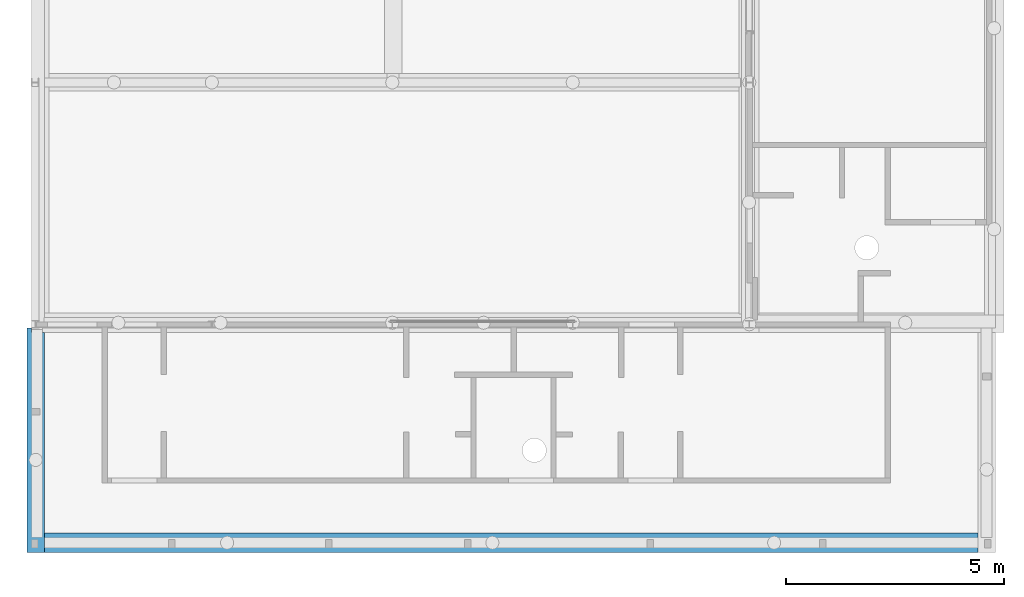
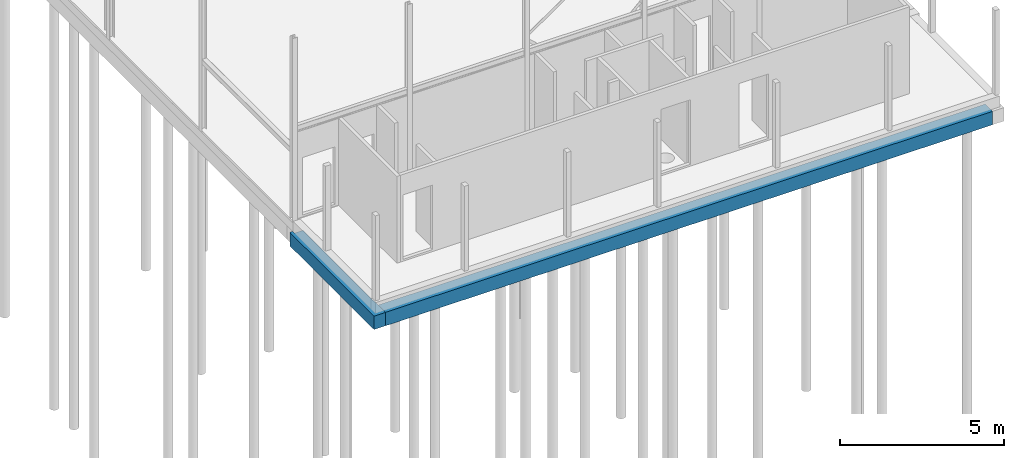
# One storey, part 11 of 17: 2 footings.
"""IFC2X3 building model written with IfcOpenShell, lengths in millimetres."""

from ifc_helpers import new_model, entity, si_unit, converted_unit, derived_unit, direction, frame, origin, place, context, subcontext, project, spatial, faceted_brep, source, transform, mapped, material, type_object, type_shapes, element, save


model = new_model("IFC2X3")

# Units and contexts
model_context = context("Model", 3, precision=0.01, world=origin(), true_north=direction((6.123031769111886e-17, 1.0)))
plan_context = context("Plan", 3, precision=0.01, world=origin(), true_north=direction((6.123031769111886e-17, 1.0)))
body_context = subcontext(model_context, "Body", "Model", "MODEL_VIEW")
ifc_project = project(units=[si_unit("LENGTHUNIT", "METRE", prefix="MILLI"), si_unit("AREAUNIT", "SQUARE_METRE"), si_unit("VOLUMEUNIT", "CUBIC_METRE"), converted_unit("PLANEANGLEUNIT", "DEGREE", entity("IfcPlaneAngleMeasure", 0.017453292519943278), si_unit("PLANEANGLEUNIT", "RADIAN"), dimensions=[0, 0, 0, 0, 0, 0, 0]), si_unit("MASSUNIT", "GRAM", prefix="KILO"), derived_unit("MASSDENSITYUNIT", [(si_unit("MASSUNIT", "GRAM", prefix="KILO"), 1), (si_unit("LENGTHUNIT", "METRE"), -3)]), derived_unit("IONCONCENTRATIONUNIT", [(si_unit("MASSUNIT", "GRAM", prefix="KILO"), 1), (si_unit("LENGTHUNIT", "METRE"), -3)]), derived_unit("MOMENTOFINERTIAUNIT", [(si_unit("LENGTHUNIT", "METRE"), 4)]), si_unit("TIMEUNIT", "SECOND"), si_unit("FREQUENCYUNIT", "HERTZ"), si_unit("THERMODYNAMICTEMPERATUREUNIT", "DEGREE_CELSIUS"), derived_unit("THERMALTRANSMITTANCEUNIT", [(si_unit("MASSUNIT", "GRAM", prefix="KILO"), 1), (si_unit("THERMODYNAMICTEMPERATUREUNIT", "KELVIN"), -1), (si_unit("TIMEUNIT", "SECOND"), -3)]), derived_unit("THERMALCONDUCTANCEUNIT", [(si_unit("MASSUNIT", "GRAM", prefix="KILO"), 1), (si_unit("THERMODYNAMICTEMPERATUREUNIT", "KELVIN"), -1), (si_unit("TIMEUNIT", "SECOND"), -3), (si_unit("LENGTHUNIT", "METRE"), 1)]), derived_unit("VOLUMETRICFLOWRATEUNIT", [(si_unit("LENGTHUNIT", "METRE", prefix="DECI"), 3), (si_unit("TIMEUNIT", "SECOND"), -1)]), derived_unit("MASSFLOWRATEUNIT", [(si_unit("MASSUNIT", "GRAM", prefix="KILO"), 1), (si_unit("TIMEUNIT", "SECOND"), -1)]), derived_unit("ROTATIONALFREQUENCYUNIT", [(si_unit("TIMEUNIT", "SECOND"), -1)]), si_unit("ELECTRICCURRENTUNIT", "AMPERE"), si_unit("ELECTRICVOLTAGEUNIT", "VOLT"), si_unit("POWERUNIT", "WATT"), si_unit("FORCEUNIT", "NEWTON", prefix="KILO"), si_unit("ILLUMINANCEUNIT", "LUX"), si_unit("LUMINOUSFLUXUNIT", "LUMEN"), si_unit("LUMINOUSINTENSITYUNIT", "CANDELA"), si_unit("ENERGYUNIT", "JOULE"), derived_unit("USERDEFINED", [(si_unit("MASSUNIT", "GRAM", prefix="KILO"), -1), (si_unit("LENGTHUNIT", "METRE"), -2), (si_unit("TIMEUNIT", "SECOND"), 3), (si_unit("LUMINOUSFLUXUNIT", "LUMEN"), 1)]), derived_unit("USERDEFINED", [(si_unit("MASSUNIT", "GRAM", prefix="KILO"), 1), (si_unit("TIMEUNIT", "SECOND"), -3), (si_unit("LENGTHUNIT", "METRE"), 3), (si_unit("ELECTRICCURRENTUNIT", "AMPERE"), -2)]), derived_unit("SOUNDPOWERUNIT", [(si_unit("MASSUNIT", "GRAM", prefix="KILO"), 1), (si_unit("TIMEUNIT", "SECOND"), -3), (si_unit("LENGTHUNIT", "METRE"), 2)]), derived_unit("SOUNDPRESSUREUNIT", [(si_unit("MASSUNIT", "GRAM", prefix="KILO"), 1), (si_unit("LENGTHUNIT", "METRE"), -1), (si_unit("TIMEUNIT", "SECOND"), -2)]), derived_unit("LINEARVELOCITYUNIT", [(si_unit("LENGTHUNIT", "METRE"), 1), (si_unit("TIMEUNIT", "SECOND"), -1)]), si_unit("PRESSUREUNIT", "PASCAL"), derived_unit("USERDEFINED", [(si_unit("MASSUNIT", "GRAM", prefix="KILO"), 1), (si_unit("LENGTHUNIT", "METRE"), -2), (si_unit("TIMEUNIT", "SECOND"), -2)]), derived_unit("LINEARFORCEUNIT", [(si_unit("MASSUNIT", "GRAM", prefix="KILO"), 1), (si_unit("TIMEUNIT", "SECOND"), -2)]), derived_unit("PLANARFORCEUNIT", [(si_unit("MASSUNIT", "GRAM", prefix="KILO"), 1), (si_unit("LENGTHUNIT", "METRE"), -1), (si_unit("TIMEUNIT", "SECOND"), -2)]), derived_unit("SPECIFICHEATCAPACITYUNIT", [(si_unit("THERMODYNAMICTEMPERATUREUNIT", "KELVIN"), -1), (si_unit("LENGTHUNIT", "METRE"), 2), (si_unit("TIMEUNIT", "SECOND"), -2)]), derived_unit("HEATFLUXDENSITYUNIT", [(si_unit("MASSUNIT", "GRAM", prefix="KILO"), 1), (si_unit("TIMEUNIT", "SECOND"), -3)]), derived_unit("HEATINGVALUEUNIT", [(si_unit("LENGTHUNIT", "METRE"), 2), (si_unit("TIMEUNIT", "SECOND"), -2)]), derived_unit("VAPORPERMEABILITYUNIT", [(si_unit("LENGTHUNIT", "METRE"), -1), (si_unit("TIMEUNIT", "SECOND"), 1)]), derived_unit("DYNAMICVISCOSITYUNIT", [(si_unit("MASSUNIT", "GRAM", prefix="KILO"), 1), (si_unit("TIMEUNIT", "SECOND"), -1), (si_unit("LENGTHUNIT", "METRE"), -1)]), derived_unit("THERMALEXPANSIONCOEFFICIENTUNIT", [(si_unit("THERMODYNAMICTEMPERATUREUNIT", "KELVIN"), -1)]), derived_unit("MODULUSOFELASTICITYUNIT", [(si_unit("MASSUNIT", "GRAM", prefix="KILO"), 1), (si_unit("LENGTHUNIT", "METRE"), -1), (si_unit("TIMEUNIT", "SECOND"), -2)]), derived_unit("ISOTHERMALMOISTURECAPACITYUNIT", [(si_unit("MASSUNIT", "GRAM", prefix="KILO"), -1), (si_unit("LENGTHUNIT", "METRE"), 3)]), derived_unit("MOISTUREDIFFUSIVITYUNIT", [(si_unit("TIMEUNIT", "SECOND"), -1), (si_unit("LENGTHUNIT", "METRE"), 2)]), derived_unit("MASSPERLENGTHUNIT", [(si_unit("MASSUNIT", "GRAM", prefix="KILO"), 1), (si_unit("LENGTHUNIT", "METRE"), -1)]), derived_unit("THERMALRESISTANCEUNIT", [(si_unit("MASSUNIT", "GRAM", prefix="KILO"), -1), (si_unit("TIMEUNIT", "SECOND"), 3), (si_unit("THERMODYNAMICTEMPERATUREUNIT", "KELVIN"), 1)]), derived_unit("ACCELERATIONUNIT", [(si_unit("LENGTHUNIT", "METRE"), 1), (si_unit("TIMEUNIT", "SECOND"), -2)]), derived_unit("ANGULARVELOCITYUNIT", [(si_unit("TIMEUNIT", "SECOND"), -1), (si_unit("PLANEANGLEUNIT", "RADIAN"), 1)]), derived_unit("LINEARSTIFFNESSUNIT", [(si_unit("MASSUNIT", "GRAM", prefix="KILO"), 1), (si_unit("TIMEUNIT", "SECOND"), -2)]), derived_unit("WARPINGCONSTANTUNIT", [(si_unit("LENGTHUNIT", "METRE"), 6)]), derived_unit("LINEARMOMENTUNIT", [(si_unit("MASSUNIT", "GRAM", prefix="KILO"), 1), (si_unit("LENGTHUNIT", "METRE"), 1), (si_unit("TIMEUNIT", "SECOND"), -2)]), derived_unit("TORQUEUNIT", [(si_unit("MASSUNIT", "GRAM", prefix="KILO"), 1), (si_unit("LENGTHUNIT", "METRE"), 2), (si_unit("TIMEUNIT", "SECOND"), -2)])], contexts=[model_context, plan_context])

# Site, building, storey
site_placement = place(None, origin())
site = spatial("IfcSite", under=ifc_project, at=site_placement, Name="Default", CompositionType="ELEMENT")
building_placement = place(site_placement, origin())
building = spatial("IfcBuilding", under=site, at=building_placement, CompositionType="ELEMENT")
storey_placement = place(building_placement, origin())
storey = spatial("IfcBuildingStorey", under=building, at=storey_placement, Name="00 begane grond", CompositionType="ELEMENT", Elevation=0.0)

# Footings
ifc_material = material(Name="ihwg beton")
type_product_1 = type_object("IfcTypeProduct", Name="16_SF_LIB_funderingsbalk_dw:450x500 (ihwg)", material=ifc_material)
shared_shape_1 = source(origin(), body_context, "Body", "Brep", [
    faceted_brep([(0.0, 0.0, -500.0), (0.0, 0.0, 0.0), (0.0, 450.0, 0.0), (0.0, 450.0, -500.0), (21365.0, 450.0, 0.0), (21365.0, 0.0, 0.0), (21365.0, 450.0, -500.0), (4179.999999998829, 375.0, -500.0), (4141.17714323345, 369.8888739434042, -500.0), (10250.0, 375.0, -500.0), (10211.1771432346, 369.88887394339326, -500.0), (4218.822856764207, 369.8888739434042, -500.0), (4104.999999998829, 354.9038105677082, -500.0), (4073.9339828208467, 331.0660171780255, -500.0), (4050.096189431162, 300.0, -500.0), (4035.111126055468, 263.82285676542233, -500.0), (4029.9999999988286, 225.0, -500.0), (4035.111126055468, 186.1771432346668, -500.0), (4050.096189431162, 150.0, -500.0), (4073.9339828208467, 118.93398282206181, -500.0), (4104.999999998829, 95.0961894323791, -500.0), (4141.17714323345, 80.11112605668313, -500.0), (4179.999999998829, 75.0, -500.0), (10250.0, 75.0, -500.0), (10211.177143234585, 80.11112605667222, -500.0), (4218.822856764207, 80.11112605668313, -500.0), (10175.0, 95.09618943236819, -500.0), (4254.999999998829, 95.09618943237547, -500.0), (10143.933982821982, 118.9339828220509, -500.0), (4286.06601717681, 118.93398282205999, -500.0), (10120.096189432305, 150.0, -500.0), (4309.903810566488, 150.0, -500.0), (10105.11112605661, 186.1771432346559, -500.0), (4324.888873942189, 186.17714323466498, -500.0), (10100.0, 225.0, -500.0), (4329.999999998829, 225.0, -500.0), (4324.888873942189, 263.82285676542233, -500.0), (10105.11112605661, 263.8228567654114, -500.0), (4309.903810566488, 300.0, -500.0), (10120.096189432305, 300.0, -500.0), (4286.06601717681, 331.0660171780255, -500.0), (10143.933982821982, 331.0660171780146, -500.0), (4254.999999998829, 354.90381056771, -500.0), (10175.0, 354.9038105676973, -500.0), (21365.0, 0.0, -500.0), (16700.0, 75.0, -500.0), (16661.177143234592, 80.1111260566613, -500.0), (10288.822856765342, 80.11112605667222, -500.0), (16625.0, 95.09618943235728, -500.0), (10325.0, 95.09618943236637, -500.0), (10356.066017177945, 118.93398282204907, -500.0), (16593.93398282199, 118.93398282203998, -500.0), (10379.903810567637, 150.0, -500.0), (16570.09618943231, 150.0, -500.0), (10394.888873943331, 186.17714323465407, -500.0), (16555.111126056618, 186.17714323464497, -500.0), (10400.0, 225.0, -500.0), (16550.0, 225.0, -500.0), (16555.111126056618, 263.8228567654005, -500.0), (10394.888873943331, 263.8228567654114, -500.0), (16570.09618943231, 300.0, -500.0), (10379.903810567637, 300.0, -500.0), (16593.93398282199, 331.0660171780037, -500.0), (10356.06601717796, 331.0660171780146, -500.0), (16625.0, 354.9038105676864, -500.0), (10325.0, 354.9038105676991, -500.0), (10288.822856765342, 369.88887394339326, -500.0), (16661.1771432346, 369.88887394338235, -500.0), (16700.0, 375.0, -500.0), (16738.82285676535, 80.1111260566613, -500.0), (16775.0, 95.09618943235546, -500.0), (16806.066017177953, 118.93398282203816, -500.0), (16829.903810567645, 150.0, -500.0), (16844.88887394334, 186.17714323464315, -500.0), (16850.0, 225.0, -500.0), (16844.88887394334, 263.8228567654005, -500.0), (16829.903810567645, 300.0, -500.0), (16806.06601717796, 331.0660171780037, -500.0), (16775.0, 354.9038105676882, -500.0), (16738.82285676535, 369.88887394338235, -500.0), (4254.999999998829, 95.09618943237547, -480.0), (4218.822856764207, 80.11112605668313, -480.0), (4179.999999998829, 75.0, -480.0), (4141.17714323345, 80.11112605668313, -480.0), (4104.999999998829, 95.0961894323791, -480.0), (4073.9339828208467, 118.93398282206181, -480.0), (4050.096189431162, 150.0, -480.0), (4035.111126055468, 186.1771432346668, -480.0), (4029.9999999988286, 225.0, -480.0), (4035.111126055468, 263.82285676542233, -480.0), (4050.096189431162, 300.0, -480.0), (4073.9339828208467, 331.0660171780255, -480.0), (4104.999999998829, 354.90381056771, -480.0), (4141.17714323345, 369.8888739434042, -480.0), (4179.999999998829, 375.0, -480.0), (4218.822856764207, 369.8888739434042, -480.0), (4254.999999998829, 354.9038105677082, -480.0), (4286.06601717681, 331.0660171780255, -480.0), (4309.903810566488, 300.0, -480.0), (4324.888873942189, 263.82285676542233, -480.0), (4329.999999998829, 225.0, -480.0), (4324.888873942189, 186.17714323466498, -480.0), (4309.903810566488, 150.0, -480.0), (4286.06601717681, 118.93398282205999, -480.0), (10325.0, 95.09618943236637, -480.0), (10288.822856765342, 80.11112605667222, -480.0), (10250.0, 75.0, -480.0), (10211.1771432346, 80.11112605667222, -480.0), (10175.0, 95.09618943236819, -480.0), (10143.933982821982, 118.9339828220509, -480.0), (10120.096189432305, 150.0, -480.0), (10105.11112605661, 186.1771432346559, -480.0), (10100.0, 225.0, -480.0), (10105.11112605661, 263.8228567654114, -480.0), (10120.096189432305, 300.0, -480.0), (10143.933982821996, 331.0660171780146, -480.0), (10175.0, 354.9038105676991, -480.0), (10211.1771432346, 369.88887394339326, -480.0), (10250.0, 375.0, -480.0), (10288.822856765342, 369.88887394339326, -480.0), (10325.0, 354.9038105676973, -480.0), (10356.06601717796, 331.0660171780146, -480.0), (10379.903810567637, 300.0, -480.0), (10394.888873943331, 263.8228567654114, -480.0), (10400.0, 225.0, -480.0), (10394.888873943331, 186.17714323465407, -480.0), (10379.903810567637, 150.0, -480.0), (10356.06601717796, 118.93398282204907, -480.0), (16775.0, 95.09618943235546, -480.0), (16738.82285676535, 80.1111260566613, -480.0), (16700.0, 75.0, -480.0), (16661.1771432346, 80.1111260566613, -480.0), (16625.0, 95.09618943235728, -480.0), (16593.93398282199, 118.93398282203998, -480.0), (16570.09618943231, 150.0, -480.0), (16555.111126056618, 186.17714323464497, -480.0), (16550.0, 225.0, -480.0), (16555.111126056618, 263.8228567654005, -480.0), (16570.09618943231, 300.0, -480.0), (16593.933982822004, 331.0660171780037, -480.0), (16625.0, 354.9038105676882, -480.0), (16661.1771432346, 369.88887394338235, -480.0), (16700.0, 375.0, -480.0), (16738.82285676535, 369.88887394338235, -480.0), (16775.0, 354.9038105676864, -480.0), (16806.06601717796, 331.0660171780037, -480.0), (16829.903810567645, 300.0, -480.0), (16844.88887394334, 263.8228567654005, -480.0), (16850.0, 225.0, -480.0), (16844.88887394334, 186.17714323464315, -480.0), (16829.903810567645, 150.0, -480.0), (16806.06601717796, 118.93398282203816, -480.0)], [[[0, 1, 2, 3]], [[4, 2, 1, 5]], [[6, 3, 2, 4]], [[7, 8, 3]], [[9, 7, 3]], [[10, 7, 9]], [[10, 11, 7]], [[12, 3, 8]], [[3, 12, 13]], [[13, 14, 3]], [[15, 3, 14]], [[16, 3, 15]], [[0, 3, 16]], [[0, 16, 17]], [[18, 0, 17]], [[0, 18, 19]], [[0, 19, 20]], [[20, 21, 0]], [[22, 0, 21]], [[23, 0, 22]], [[23, 22, 24]], [[24, 22, 25]], [[26, 24, 25]], [[25, 27, 26]], [[27, 28, 26]], [[28, 27, 29]], [[28, 29, 30]], [[30, 29, 31]], [[32, 30, 31]], [[31, 33, 32]], [[33, 34, 32]], [[33, 35, 34]], [[35, 36, 34]], [[37, 34, 36]], [[37, 36, 38]], [[38, 39, 37]], [[39, 38, 40]], [[39, 40, 41]], [[42, 41, 40]], [[42, 11, 43]], [[42, 43, 41]], [[23, 44, 0]], [[45, 44, 23]], [[45, 23, 46]], [[46, 23, 47]], [[46, 47, 48]], [[49, 48, 47]], [[49, 50, 48]], [[51, 48, 50]], [[50, 52, 51]], [[52, 53, 51]], [[52, 54, 53]], [[53, 54, 55]], [[55, 54, 56]], [[55, 56, 57]], [[57, 56, 58]], [[56, 59, 58]], [[59, 60, 58]], [[60, 59, 61]], [[60, 61, 62]], [[61, 63, 62]], [[64, 62, 63]], [[63, 65, 64]], [[66, 64, 65]], [[66, 9, 67]], [[64, 66, 67]], [[67, 9, 68]], [[44, 45, 69]], [[70, 44, 69]], [[44, 70, 71]], [[72, 44, 71]], [[44, 72, 73]], [[44, 73, 74]], [[6, 44, 74]], [[74, 75, 6]], [[6, 75, 76]], [[6, 76, 77]], [[77, 78, 6]], [[6, 78, 79]], [[79, 68, 6]], [[9, 6, 68]], [[3, 6, 9]], [[10, 43, 11]], [[5, 1, 0, 44]], [[4, 5, 44, 6]], [[80, 81, 82, 83, 84, 85, 86, 87, 88, 89, 90, 91, 92, 93, 94, 95, 96, 97, 98, 99, 100, 101, 102, 103]], [[104, 105, 106, 107, 108, 109, 110, 111, 112, 113, 114, 115, 116, 117, 118, 119, 120, 121, 122, 123, 124, 125, 126, 127]], [[128, 129, 130, 131, 132, 133, 134, 135, 136, 137, 138, 139, 140, 141, 142, 143, 144, 145, 146, 147, 148, 149, 150, 151]], [[16, 88, 87, 17]], [[17, 87, 86, 18]], [[20, 19, 85, 84]], [[19, 18, 86, 85]], [[83, 21, 20, 84]], [[21, 83, 82, 22]], [[27, 25, 81, 80]], [[27, 80, 103, 29]], [[33, 31, 102, 101]], [[102, 31, 29, 103]], [[100, 35, 33, 101]], [[22, 82, 81, 25]], [[35, 100, 99, 36]], [[36, 99, 98, 38]], [[42, 40, 97, 96]], [[38, 98, 97, 40]], [[42, 96, 95, 11]], [[11, 95, 94, 7]], [[8, 7, 94, 93]], [[8, 93, 92, 12]], [[14, 13, 91, 90]], [[12, 92, 91, 13]], [[14, 90, 89, 15]], [[16, 15, 89, 88]], [[34, 112, 111, 32]], [[32, 111, 110, 30]], [[26, 28, 109, 108]], [[28, 30, 110, 109]], [[107, 24, 26, 108]], [[24, 107, 106, 23]], [[49, 47, 105, 104]], [[49, 104, 127, 50]], [[54, 52, 126, 125]], [[126, 52, 50, 127]], [[124, 56, 54, 125]], [[23, 106, 105, 47]], [[56, 124, 123, 59]], [[59, 123, 122, 61]], [[65, 63, 121, 120]], [[63, 61, 122, 121]], [[119, 66, 65, 120]], [[66, 119, 118, 9]], [[10, 9, 118, 117]], [[10, 117, 116, 43]], [[39, 41, 115, 114]], [[43, 116, 115, 41]], [[39, 114, 113, 37]], [[34, 37, 113, 112]], [[57, 136, 135, 55]], [[55, 135, 134, 53]], [[48, 51, 133, 132]], [[51, 53, 134, 133]], [[131, 46, 48, 132]], [[46, 131, 130, 45]], [[70, 69, 129, 128]], [[70, 128, 151, 71]], [[73, 72, 150, 149]], [[150, 72, 71, 151]], [[148, 74, 73, 149]], [[45, 130, 129, 69]], [[74, 148, 147, 75]], [[75, 147, 146, 76]], [[78, 77, 145, 144]], [[77, 76, 146, 145]], [[143, 79, 78, 144]], [[79, 143, 142, 68]], [[67, 68, 142, 141]], [[67, 141, 140, 64]], [[60, 62, 139, 138]], [[64, 140, 139, 62]], [[60, 138, 137, 58]], [[57, 58, 137, 136]]]),
])
type_shapes(type_product_1, [shared_shape_1])
footing_1_placement = place(storey_placement, frame((34366.19293735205, 11112.670340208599, -470.0)))
element("IfcFooting", 1, at=footing_1_placement, inside=storey, type_object=type_product_1, material=ifc_material, Name="16_SF_LIB_funderingsbalk_dw:450x500 (ihwg)", ObjectType="16_SF_LIB_funderingsbalk_dw:450x500 (ihwg)", context=body_context, shape_type="MappedRepresentation", body=[
    mapped(shared_shape_1, transform((0.0, 0.0, 0.0), scale=1.0)),
])
type_product_2 = type_object("IfcTypeProduct", Name="16_SF_LIB_funderingsbalk_dw:400x500 (ihwg)", material=ifc_material)
shared_shape_2 = source(origin(), body_context, "Body", "Brep", [
    faceted_brep([(400.0, 0.0, 0.0), (0.0, 0.0, 0.0), (0.0, 0.0, -500.0), (400.0, 0.0, -500.0), (0.0, 5140.000000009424, -500.0), (0.0, 5140.000000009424, 0.0), (100.0, 5140.000000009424, 0.0), (100.0, 5140.000000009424, -500.0), (400.0, 450.00000001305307, 0.0), (400.0, 5035.0000000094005, 0.0), (100.0, 5035.000000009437, 0.0), (400.0, 450.00000001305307, -500.0), (400.0, 5035.000000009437, -500.0), (329.9038105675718, 2045.0000000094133, -500.0), (344.8888739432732, 2081.1771432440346, -500.0), (350.0, 2120.0000000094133, -500.0), (306.06601717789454, 2013.9339828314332, -500.0), (275.0, 1990.096189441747, -500.0), (238.82285676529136, 1975.1111260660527, -500.0), (200.0, 1970.0000000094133, -500.0), (161.17714323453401, 1975.1111260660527, -500.0), (125.0, 1990.0961894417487, -500.0), (93.93398282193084, 2013.9339828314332, -500.0), (70.09618943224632, 2045.0000000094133, -500.0), (55.111126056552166, 2081.1771432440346, -500.0), (50.0, 2120.0000000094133, -500.0), (55.111126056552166, 2158.82285677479, -500.0), (70.09618943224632, 2195.0000000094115, -500.0), (93.93398282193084, 2226.066017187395, -500.0), (100.0, 5035.000000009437, -500.0), (200.0, 2270.000000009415, -500.0), (125.0, 2249.9038105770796, -500.0), (161.17714323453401, 2264.888873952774, -500.0), (344.8888739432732, 2158.8228567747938, -500.0), (329.9038105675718, 2195.000000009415, -500.0), (306.06601717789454, 2226.066017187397, -500.0), (275.0, 2249.9038105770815, -500.0), (238.82285676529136, 2264.888873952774, -500.0), (275.0, 1990.096189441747, -480.0), (238.82285676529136, 1975.1111260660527, -480.0), (200.0, 1970.0000000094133, -480.0), (161.17714323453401, 1975.1111260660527, -480.0), (125.0, 1990.0961894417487, -480.0), (93.93398282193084, 2013.9339828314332, -480.0), (70.09618943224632, 2045.0000000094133, -480.0), (55.111126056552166, 2081.1771432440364, -480.0), (50.0, 2120.0000000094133, -480.0), (55.111126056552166, 2158.8228567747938, -480.0), (70.09618943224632, 2195.000000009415, -480.0), (93.93398282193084, 2226.066017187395, -480.0), (125.0, 2249.9038105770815, -480.0), (161.17714323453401, 2264.888873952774, -480.0), (200.0, 2270.000000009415, -480.0), (238.82285676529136, 2264.888873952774, -480.0), (275.0, 2249.9038105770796, -480.0), (306.06601717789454, 2226.066017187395, -480.0), (329.9038105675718, 2195.000000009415, -480.0), (344.8888739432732, 2158.8228567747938, -480.0), (350.0, 2120.0000000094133, -480.0), (344.8888739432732, 2081.1771432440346, -480.0), (329.9038105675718, 2045.0000000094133, -480.0), (306.06601717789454, 2013.9339828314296, -480.0)], [[[0, 1, 2, 3]], [[4, 5, 6, 7]], [[6, 5, 1, 0, 8, 9, 10]], [[8, 0, 3, 11, 12, 9]], [[11, 13, 14]], [[11, 14, 15]], [[16, 13, 11]], [[17, 16, 11]], [[18, 17, 11]], [[19, 18, 11]], [[15, 12, 11]], [[19, 11, 20]], [[11, 21, 20]], [[21, 11, 22]], [[22, 11, 2]], [[2, 11, 3]], [[2, 23, 22]], [[23, 2, 24]], [[25, 24, 2]], [[2, 4, 25]], [[26, 25, 4]], [[27, 26, 4]], [[4, 28, 27]], [[28, 4, 29]], [[7, 29, 4]], [[12, 30, 29]], [[31, 28, 29]], [[32, 31, 29]], [[30, 32, 29]], [[15, 33, 12]], [[34, 12, 33]], [[12, 34, 35]], [[35, 36, 12]], [[36, 37, 12]], [[37, 30, 12]], [[4, 2, 1, 5]], [[7, 6, 10, 29]], [[12, 29, 10, 9]], [[38, 39, 40, 41, 42, 43, 44, 45, 46, 47, 48, 49, 50, 51, 52, 53, 54, 55, 56, 57, 58, 59, 60, 61]], [[25, 46, 45, 24]], [[24, 45, 44, 23]], [[21, 22, 43, 42]], [[22, 23, 44, 43]], [[41, 20, 21, 42]], [[20, 41, 40, 19]], [[17, 18, 39, 38]], [[17, 38, 61, 16]], [[14, 13, 60, 59]], [[60, 13, 16, 61]], [[58, 15, 14, 59]], [[19, 40, 39, 18]], [[15, 58, 57, 33]], [[33, 57, 56, 34]], [[36, 35, 55, 54]], [[34, 56, 55, 35]], [[36, 54, 53, 37]], [[37, 53, 52, 30]], [[32, 30, 52, 51]], [[32, 51, 50, 31]], [[27, 28, 49, 48]], [[31, 50, 49, 28]], [[27, 48, 47, 26]], [[25, 26, 47, 46]]]),
])
type_shapes(type_product_2, [shared_shape_2])
footing_2_placement = place(storey_placement, frame((33966.19293735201, 11112.670340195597, -470.0)))
element("IfcFooting", 2, at=footing_2_placement, inside=storey, type_object=type_product_2, material=ifc_material, Name="16_SF_LIB_funderingsbalk_dw:400x500 (ihwg)", ObjectType="16_SF_LIB_funderingsbalk_dw:400x500 (ihwg)", context=body_context, shape_type="MappedRepresentation", body=[
    mapped(shared_shape_2, transform((0.0, 0.0, 0.0), scale=1.0)),
])

save(model, "model.ifc")
